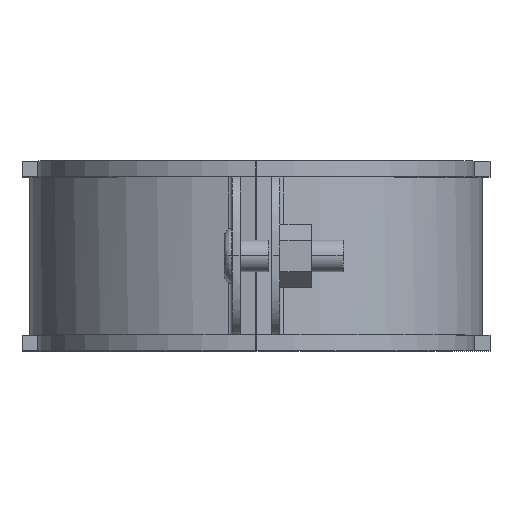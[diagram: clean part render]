
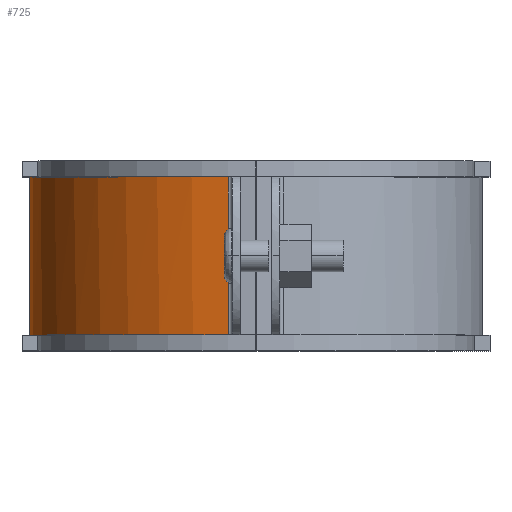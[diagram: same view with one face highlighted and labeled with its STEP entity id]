
A CAD part, top view. The second image highlights one B-rep face of the part: STEP entity #725.
In plain terms, the highlighted free-form (B-spline) face has degree [3, 1] with [4, 2] control points.
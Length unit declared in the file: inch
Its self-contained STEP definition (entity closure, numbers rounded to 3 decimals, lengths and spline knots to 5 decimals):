
#401=EDGE_CURVE('',#1081,#1082,#1083,.T.);
#501=EDGE_CURVE('',#1244,#1245,#1246,.T.);
#587=EDGE_CURVE('',#1081,#1245,#1376,.T.);
#725=ADVANCED_FACE('',(#1572),#1573,.T.);
#783=EDGE_CURVE('',#1082,#1244,#1646,.T.);
#1081=VERTEX_POINT('',#2041);
#1082=VERTEX_POINT('',#2042);
#1083=B_SPLINE_CURVE_WITH_KNOTS('',3,(#2043,#2044,#2045,#2046),.UNSPECIFIED.,.F.,.F.,(4,4),(-1.0,-0.0),.UNSPECIFIED.);
#1244=VERTEX_POINT('',#2307);
#1245=VERTEX_POINT('',#2308);
#1246=B_SPLINE_CURVE_WITH_KNOTS('',3,(#2309,#2310,#2311,#2312),.UNSPECIFIED.,.F.,.F.,(4,4),(0.0,1.0),.UNSPECIFIED.);
#1376=LINE('',#2505,#2506);
#1572=FACE_OUTER_BOUND('',#2979,.T.);
#1573=B_SPLINE_SURFACE_WITH_KNOTS('',3,1,((#2980,#2981),(#2982,#2983),(#2984,#2985),(#2986,#2987)),.UNSPECIFIED.,.F.,.F.,.F.,(4,4),(2,2),(-1.0,-0.0),(0.0,1.25),.UNSPECIFIED.);
#1646=LINE('',#3119,#3120);
#2041=CARTESIAN_POINT('',(1.56744,1.24627,4.30439));
#2042=CARTESIAN_POINT('',(-0.00013,1.24627,2.53071));
#2043=CARTESIAN_POINT('',(1.56744,1.24627,4.30439));
#2044=CARTESIAN_POINT('',(0.68418,1.24627,4.19682));
#2045=CARTESIAN_POINT('',(-0.00013,1.24627,3.44276));
#2046=CARTESIAN_POINT('',(-0.00013,1.24627,2.53071));
#2307=CARTESIAN_POINT('',(-0.00013,0.0,2.53071));
#2308=CARTESIAN_POINT('',(1.56744,0.0,4.30439));
#2309=CARTESIAN_POINT('',(-0.00013,0.0,2.53071));
#2310=CARTESIAN_POINT('',(-0.00013,0.0,3.44276));
#2311=CARTESIAN_POINT('',(0.68418,0.0,4.19682));
#2312=CARTESIAN_POINT('',(1.56744,0.0,4.30439));
#2505=CARTESIAN_POINT('',(1.56744,1.25,4.30439));
#2506=VECTOR('',#4242,1.0);
#2979=EDGE_LOOP('',(#4563,#4564,#4565,#4566));
#2980=CARTESIAN_POINT('',(1.56744,1.25,4.30439));
#2981=CARTESIAN_POINT('',(1.56744,0.0,4.30439));
#2982=CARTESIAN_POINT('',(0.68418,1.25,4.19682));
#2983=CARTESIAN_POINT('',(0.68418,0.0,4.19682));
#2984=CARTESIAN_POINT('',(-0.00013,1.25,3.44276));
#2985=CARTESIAN_POINT('',(-0.00013,0.0,3.44276));
#2986=CARTESIAN_POINT('',(-0.00013,1.25,2.53071));
#2987=CARTESIAN_POINT('',(-0.00013,0.0,2.53071));
#3119=CARTESIAN_POINT('',(-0.00013,1.25,2.53071));
#3120=VECTOR('',#4680,1.0);
#4242=DIRECTION('',(0.0,-1.0,0.0));
#4563=ORIENTED_EDGE('',*,*,#401,.T.);
#4564=ORIENTED_EDGE('',*,*,#783,.T.);
#4565=ORIENTED_EDGE('',*,*,#501,.T.);
#4566=ORIENTED_EDGE('',*,*,#587,.F.);
#4680=DIRECTION('',(0.0,-1.0,0.0));
